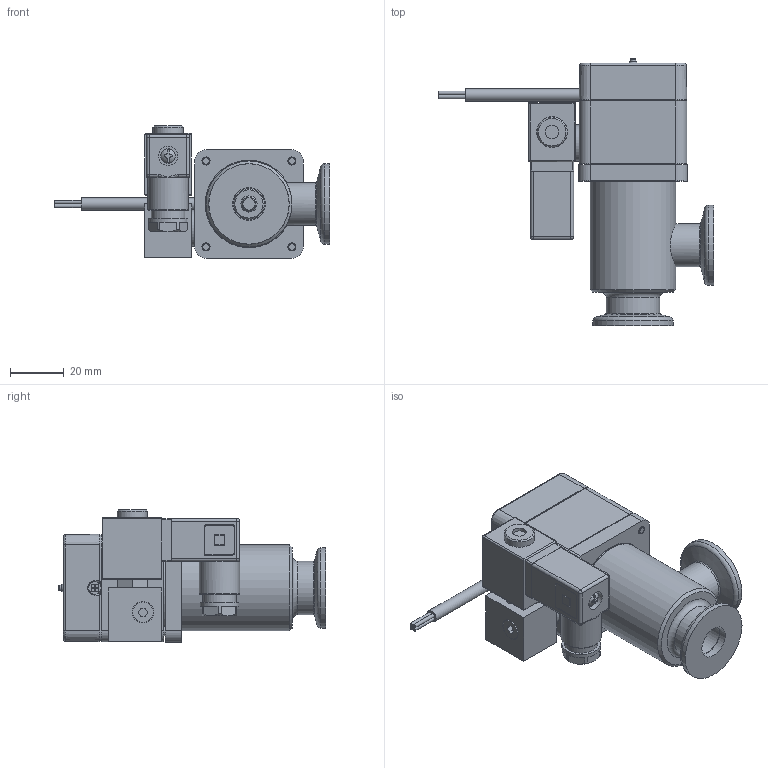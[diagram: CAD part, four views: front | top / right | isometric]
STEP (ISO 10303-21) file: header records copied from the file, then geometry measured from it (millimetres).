
FILE_DESCRIPTION(/* description */ (''),/* implementation_level */ '2;1');
FILE_NAME(/* name */ '1097773156_203.stp',/* time_stamp */ '2021-04-23T11:35:50+02:00',/* author */ (''),/* organization */ (''),/* preprocessor_version */ 'ST-DEVELOPER v16.7',/* originating_system */ 'SIEMENS PLM Software NX 1915',/* authorisation */ '');
FILE_SCHEMA (('AP203_CONFIGURATION_CONTROLLED_3D_DESIGN_OF_MECHANICAL_PARTS_AND_ASSEMBLIES_MIM_LF { 1 0 10303 403 2 1 2}'));
Length unit declared in the file: millimetre
Products named in the file (18): 467882; 437235; 346126.1; 245708.5; 346129.1; 244091.2; 236208.2; 233364; 239888_6.1; 236204_1.1; 234225.1; 228218.16; 230165.10; 346132.2; N-8501-400.2_MODELNX-ARRAGMNTArrangement 1; 402917; 402885_NX-ARRAGMNTLAGEMELDERZEICHNUNG; 384081
Assembly tree (23 placements, depth 4):
  384081
    230165.10  x2
    228218.16
    402885_NX-ARRAGMNTLAGEMELDERZEICHNUNG
      236204_1.1  x2
      239888_6.1
      233364
      236208.2  x2
    402917
      244091.2
      N-8501-400.2_MODELNX-ARRAGMNTArrangement 1
        437235
        467882
    234225.1  x4
    346132.2
      346129.1
      245708.5
      346126.1
Bounding box: 102.43 x 99.7 x 49.3 mm (x, y, z)
Volume: 84143.1 mm3; surface area: 59095.9 mm2
Topology: 20 solids, 21 shells, 830 faces, 2040 edges, 1323 vertices
Faces by surface type: plane 489, cylinder 183, cone 96, bspline 28, torus 27, sphere 7
Full cylindrical faces by diameter (mm): 1.4 x8, 1.8 x1, 2 x8, 2.2 x4, 2.3 x2, 2.5 x3, 3 x13, 3.3 x4, 4 x2, 4.2 x1, 4.22 x1, 4.6 x1, 4.7 x2, 4.8 x2, 4.9 x2, 5 x3, 5.1 x2, 5.4 x1, 5.5 x4, 5.6 x2, 5.984 x6, 6 x1, 6.01 x2, 7 x1, 7.2 x1, 7.4 x1, 7.6 x1, 7.9 x1, 8 x1, 8.85 x1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
Entity records: 23174 total; most frequent: CARTESIAN_POINT 4924, DIRECTION 3373, ORIENTED_EDGE 3114, EDGE_CURVE 1557, AXIS2_PLACEMENT_3D 1200, VERTEX_POINT 1121, EDGE_LOOP 1008, LINE 973
